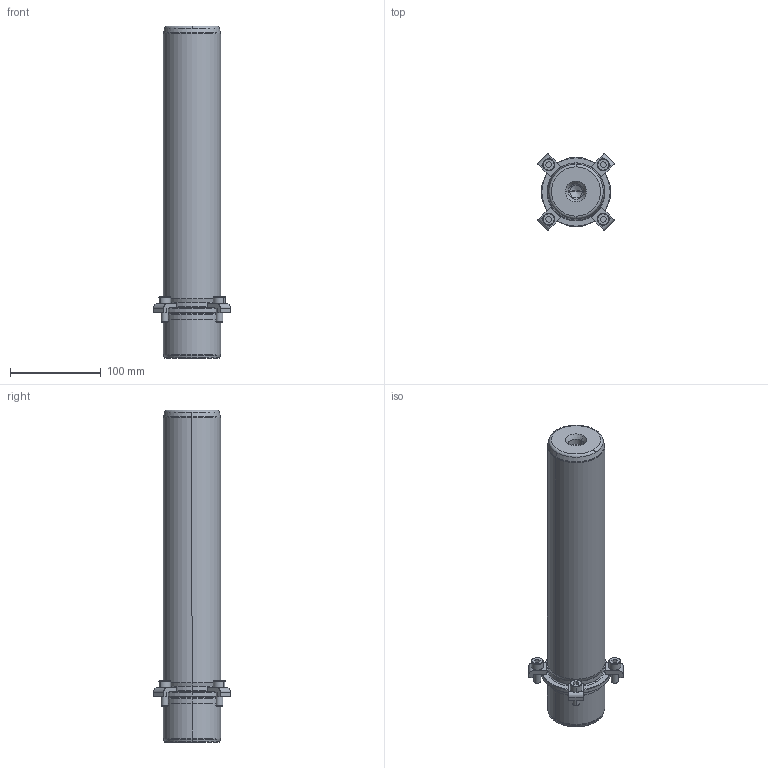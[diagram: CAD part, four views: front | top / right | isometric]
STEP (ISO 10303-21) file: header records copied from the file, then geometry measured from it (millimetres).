
FILE_DESCRIPTION((''),'2;1');
FILE_NAME('P21_063_315.stp','2008-12-23T09:23:20',(''),(''),'Mechanical Desktop 2009','Mechanical Desktop 2009',', , ');
FILE_SCHEMA(('CONFIG_CONTROL_DESIGN'));
Length unit declared in the file: millimetre
Products named in the file (2): Product; blmdl1
Assembly tree (1 placements, depth 2):
  Product
    blmdl1
Bounding box: 84.5 x 84.5 x 365 mm (x, y, z)
Volume: 1137176.3 mm3; surface area: 93868.3 mm2
Topology: 9 solids, 9 shells, 195 faces, 477 edges, 309 vertices
Faces by surface type: plane 77, cylinder 52, cone 34, torus 16, bspline 16
Entity records: 6547 total; most frequent: CARTESIAN_POINT 1683, DIRECTION 1078, ORIENTED_EDGE 946, EDGE_CURVE 473, AXIS2_PLACEMENT_3D 424, VERTEX_POINT 309, CIRCLE 243, VECTOR 230
